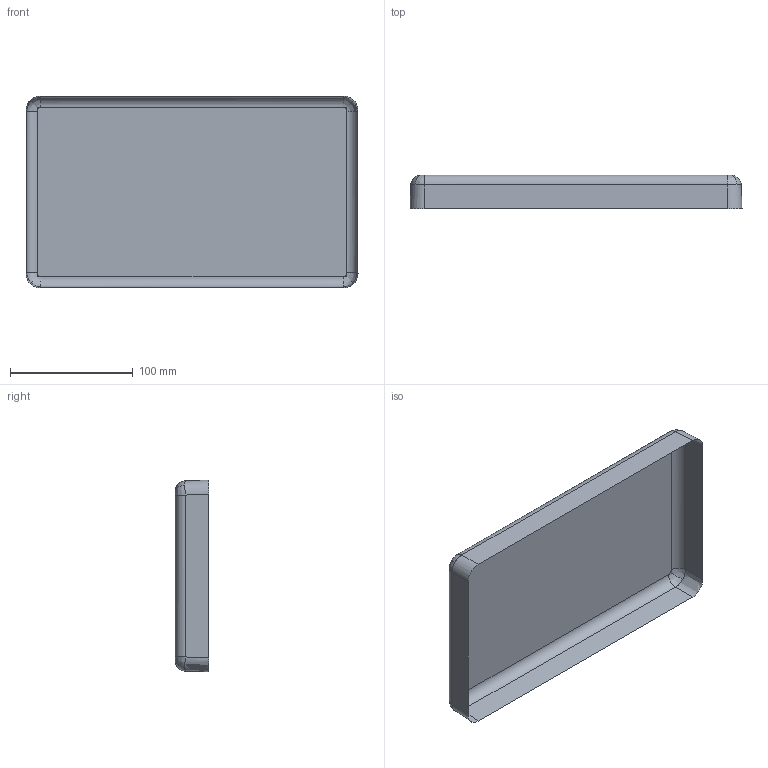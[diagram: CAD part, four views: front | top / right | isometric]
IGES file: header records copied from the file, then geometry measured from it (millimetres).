
Start section: SolidWorks IGES file using analytic representation for surfaces
Global section: file name: C:\Working\1170 OEM and dealer web site\1170 TOP INTERNAL GEOMETRY.IGS; native system: SolidWorks 2007; preprocessor: SolidWorks 2007; author: mhakami; date: 090812.134220; units: inch
Bounding box: 270.76 x 27.43 x 156.46 mm (x, y, z)
Surface area: 61472.1 mm2 (no closed solid volume)
Topology: 0 solids, 0 shells, 21 faces, 134 edges, 134 vertices
Faces by surface type: bspline 13, revolution 8
